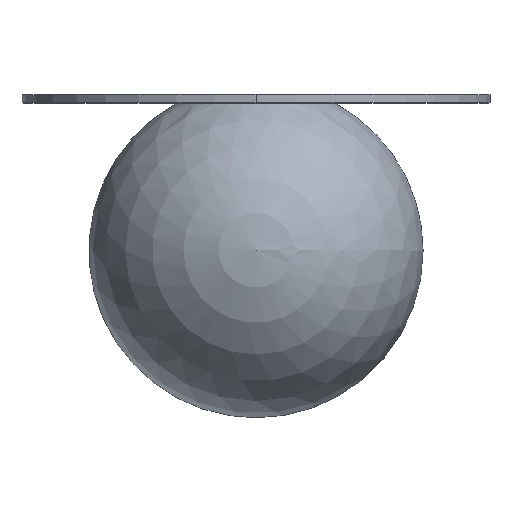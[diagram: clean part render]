
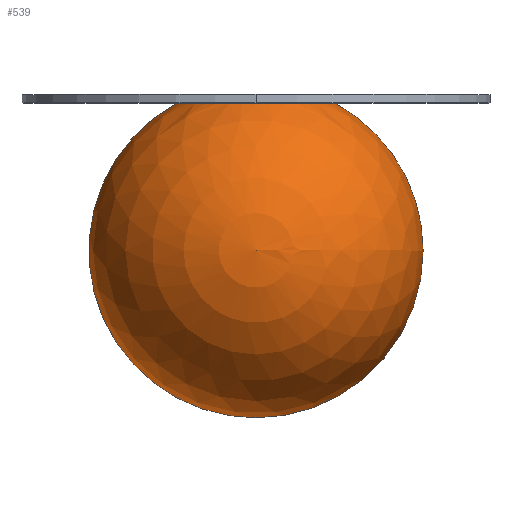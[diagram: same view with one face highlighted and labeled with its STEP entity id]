
A CAD part, top view. The second image highlights one B-rep face of the part: STEP entity #539.
In plain terms, the highlighted spherical face has radius 50 mm.
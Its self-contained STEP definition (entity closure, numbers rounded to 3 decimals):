
#39 = ORIENTED_EDGE ( 'NONE', *, *, #72, .T. ) ;
#67 = CARTESIAN_POINT ( 'NONE',  ( 0., 0., 0. ) ) ;
#72 = EDGE_CURVE ( 'NONE', #1379, #1054, #1408, .T. ) ;
#193 = DIRECTION ( 'NONE',  ( 1., 0., 0. ) ) ;
#204 = AXIS2_PLACEMENT_3D ( 'NONE', #67, #308, #313 ) ;
#227 = CIRCLE ( 'NONE', #1278, 50. ) ;
#266 = DIRECTION ( 'NONE',  ( -1., 0., 0. ) ) ;
#275 = DIRECTION ( 'NONE',  ( -1., 0., 0. ) ) ;
#287 = CARTESIAN_POINT ( 'NONE',  ( 24., 43.863, 0. ) ) ;
#292 = DIRECTION ( 'NONE',  ( 0., 1., 0. ) ) ;
#303 = FACE_OUTER_BOUND ( 'NONE', #775, .T. ) ;
#308 = DIRECTION ( 'NONE',  ( 0., 0., 1. ) ) ;
#313 = DIRECTION ( 'NONE',  ( 1., 0., 0. ) ) ;
#499 = DIRECTION ( 'NONE',  ( 0., 0., -1. ) ) ;
#539 = ADVANCED_FACE ( 'NONE', ( #303 ), #1191, .T. ) ;
#671 = VERTEX_POINT ( 'NONE', #1098 ) ;
#725 = CARTESIAN_POINT ( 'NONE',  ( 0., 0., 0. ) ) ;
#750 = CIRCLE ( 'NONE', #1107, 24. ) ;
#775 = EDGE_LOOP ( 'NONE', ( #779, #39, #963 ) ) ;
#779 = ORIENTED_EDGE ( 'NONE', *, *, #1417, .F. ) ;
#861 = AXIS2_PLACEMENT_3D ( 'NONE', #971, #1406, #193 ) ;
#963 = ORIENTED_EDGE ( 'NONE', *, *, #1392, .F. ) ;
#971 = CARTESIAN_POINT ( 'NONE',  ( 0., 0., 0. ) ) ;
#1054 = VERTEX_POINT ( 'NONE', #287 ) ;
#1098 = CARTESIAN_POINT ( 'NONE',  ( -24., 43.863, 0. ) ) ;
#1107 = AXIS2_PLACEMENT_3D ( 'NONE', #1374, #292, #275 ) ;
#1191 = SPHERICAL_SURFACE ( 'NONE', #861, 50. ) ;
#1278 = AXIS2_PLACEMENT_3D ( 'NONE', #725, #499, #266 ) ;
#1284 = CARTESIAN_POINT ( 'NONE',  ( 0., -50., 0. ) ) ;
#1374 = CARTESIAN_POINT ( 'NONE',  ( 0., 43.863, 0. ) ) ;
#1379 = VERTEX_POINT ( 'NONE', #1284 ) ;
#1392 = EDGE_CURVE ( 'NONE', #671, #1054, #750, .T. ) ;
#1406 = DIRECTION ( 'NONE',  ( 0., 0., -1. ) ) ;
#1408 = CIRCLE ( 'NONE', #204, 50. ) ;
#1417 = EDGE_CURVE ( 'NONE', #1379, #671, #227, .T. ) ;
